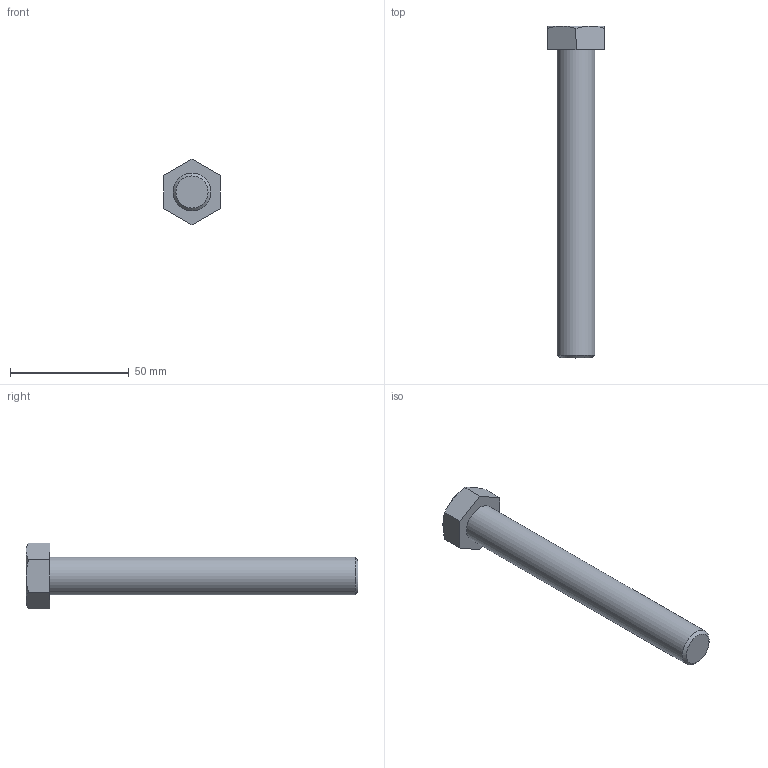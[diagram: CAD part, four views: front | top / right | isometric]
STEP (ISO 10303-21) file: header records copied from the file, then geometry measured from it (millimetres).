
FILE_DESCRIPTION(/* description */ (''),/* implementation_level */ '2;1');
FILE_NAME(/* name */ 'C:\Users\unitec\Documents\Inventor\各種小物\JIS\JIS B 1180 六角ボルト 等級C\hbc16\M16x130.stp',/* time_stamp */ '2015-02-13T14:52:12+09:00',/* author */ ('unitec'),/* organization */ (''),/* preprocessor_version */ 'ST-DEVELOPER v15.2',/* originating_system */ 'Autodesk Inventor 2014',/* authorisation */ '');
FILE_SCHEMA (('AUTOMOTIVE_DESIGN { 1 0 10303 214 3 1 1 }'));
Length unit declared in the file: millimetre
Products named in the file (1): M16x130
Bounding box: 24 x 140 x 27.71 mm (x, y, z)
Volume: 31075.3 mm3; surface area: 8302 mm2
Topology: 1 solids, 1 shells, 17 faces, 35 edges, 21 vertices
Faces by surface type: plane 9, cone 7, cylinder 1
Full cylindrical faces by diameter (mm): 16 x1
Entity records: 441 total; most frequent: CARTESIAN_POINT 96, ORIENTED_EDGE 66, DIRECTION 66, EDGE_CURVE 33, AXIS2_PLACEMENT_3D 27, VERTEX_POINT 21, EDGE_LOOP 20, ADVANCED_FACE 17
